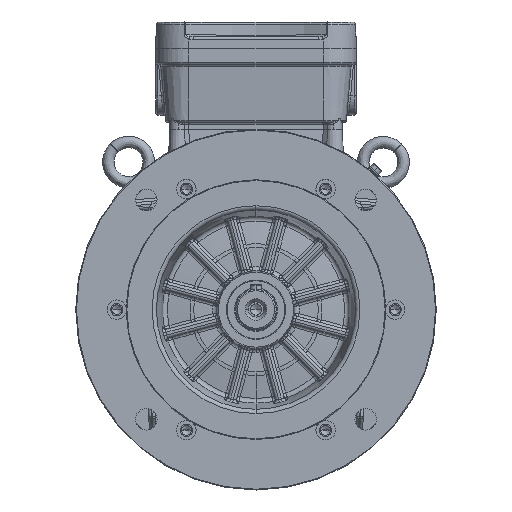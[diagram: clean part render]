
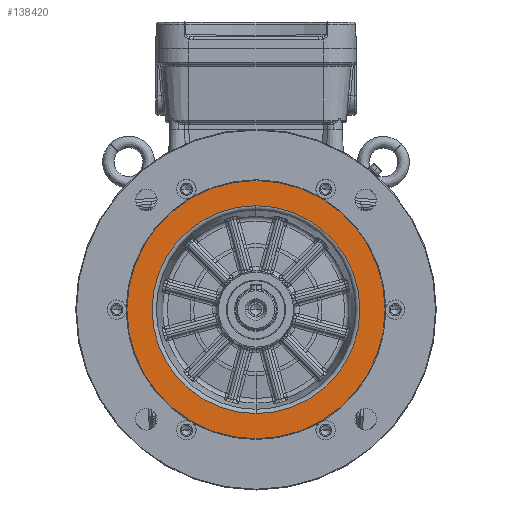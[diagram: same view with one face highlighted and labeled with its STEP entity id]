
A CAD part, top view. The second image highlights one B-rep face of the part: STEP entity #138420.
In plain terms, the highlighted planar face has unit normal (0, 0, 1).
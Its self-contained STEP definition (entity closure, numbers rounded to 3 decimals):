
#2909 = CARTESIAN_POINT ( 'NONE',  ( 0., 0., 38.5 ) ) ;
#12265 = VERTEX_POINT ( 'NONE', #142078 ) ;
#14125 = PLANE ( 'NONE',  #35091 ) ;
#33401 = VERTEX_POINT ( 'NONE', #39937 ) ;
#35091 = AXIS2_PLACEMENT_3D ( 'NONE', #93106, #105895, #159960 ) ;
#36280 = CIRCLE ( 'NONE', #140219, 89.5 ) ;
#38066 = DIRECTION ( 'NONE',  ( 0., -1., 0. ) ) ;
#39937 = CARTESIAN_POINT ( 'NONE',  ( 0., -72.017, 38.5 ) ) ;
#41861 = ORIENTED_EDGE ( 'NONE', *, *, #102213, .T. ) ;
#43543 = ORIENTED_EDGE ( 'NONE', *, *, #153099, .T. ) ;
#44149 = ORIENTED_EDGE ( 'NONE', *, *, #65594, .T. ) ;
#47283 = AXIS2_PLACEMENT_3D ( 'NONE', #2909, #110372, #163276 ) ;
#49641 = DIRECTION ( 'NONE',  ( 0., 0., 1. ) ) ;
#56504 = DIRECTION ( 'NONE',  ( 0., 0., -1. ) ) ;
#65594 = EDGE_CURVE ( 'NONE', #98636, #33401, #86178, .T. ) ;
#71005 = CIRCLE ( 'NONE', #47283, 89.5 ) ;
#81623 = FACE_OUTER_BOUND ( 'NONE', #143218, .T. ) ;
#86178 = CIRCLE ( 'NONE', #137377, 72.017 ) ;
#93106 = CARTESIAN_POINT ( 'NONE',  ( -90., 0., 38.5 ) ) ;
#95386 = CARTESIAN_POINT ( 'NONE',  ( 0., 0., 38.5 ) ) ;
#98636 = VERTEX_POINT ( 'NONE', #127235 ) ;
#99329 = CARTESIAN_POINT ( 'NONE',  ( 0., 89.5, 38.5 ) ) ;
#102213 = EDGE_CURVE ( 'NONE', #33401, #98636, #108998, .T. ) ;
#105895 = DIRECTION ( 'NONE',  ( 0., 0., -1. ) ) ;
#108998 = CIRCLE ( 'NONE', #117631, 72.017 ) ;
#110372 = DIRECTION ( 'NONE',  ( 0., 0., 1. ) ) ;
#117605 = CARTESIAN_POINT ( 'NONE',  ( 0., 0., 38.5 ) ) ;
#117631 = AXIS2_PLACEMENT_3D ( 'NONE', #95386, #56504, #123270 ) ;
#123270 = DIRECTION ( 'NONE',  ( 0., -1., 0. ) ) ;
#127235 = CARTESIAN_POINT ( 'NONE',  ( 0., 72.017, 38.5 ) ) ;
#129210 = DIRECTION ( 'NONE',  ( 0., -1., 0. ) ) ;
#137307 = EDGE_LOOP ( 'NONE', ( #41861, #44149 ) ) ;
#137377 = AXIS2_PLACEMENT_3D ( 'NONE', #117605, #158367, #38066 ) ;
#138420 = ADVANCED_FACE ( 'NONE', ( #81623, #164839 ), #14125, .F. ) ;
#138423 = ORIENTED_EDGE ( 'NONE', *, *, #158924, .T. ) ;
#140219 = AXIS2_PLACEMENT_3D ( 'NONE', #168161, #49641, #129210 ) ;
#142078 = CARTESIAN_POINT ( 'NONE',  ( 0., -89.5, 38.5 ) ) ;
#143218 = EDGE_LOOP ( 'NONE', ( #138423, #43543 ) ) ;
#153099 = EDGE_CURVE ( 'NONE', #160877, #12265, #36280, .T. ) ;
#158367 = DIRECTION ( 'NONE',  ( 0., 0., -1. ) ) ;
#158924 = EDGE_CURVE ( 'NONE', #12265, #160877, #71005, .T. ) ;
#159960 = DIRECTION ( 'NONE',  ( 0., -1., 0. ) ) ;
#160877 = VERTEX_POINT ( 'NONE', #99329 ) ;
#163276 = DIRECTION ( 'NONE',  ( 0., -1., 0. ) ) ;
#164839 = FACE_BOUND ( 'NONE', #137307, .T. ) ;
#168161 = CARTESIAN_POINT ( 'NONE',  ( 0., 0., 38.5 ) ) ;
